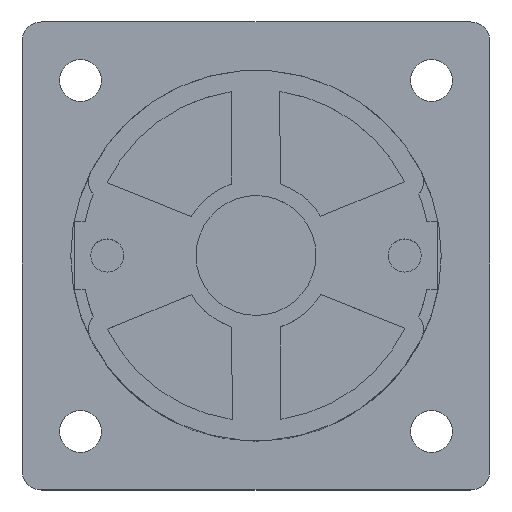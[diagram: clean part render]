
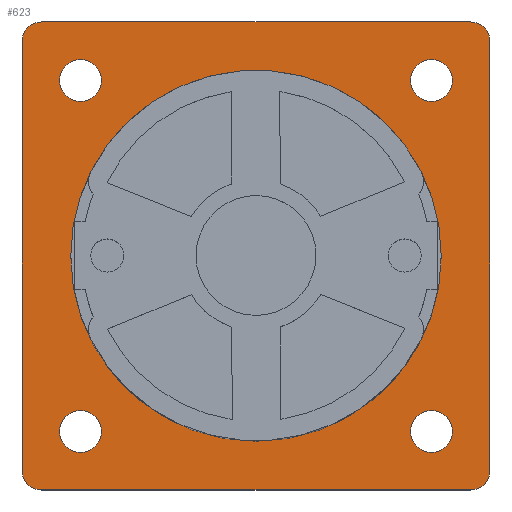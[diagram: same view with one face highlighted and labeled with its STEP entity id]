
A CAD part, top view. The second image highlights one B-rep face of the part: STEP entity #623.
In plain terms, the highlighted planar face has unit normal (0, 0, 1).
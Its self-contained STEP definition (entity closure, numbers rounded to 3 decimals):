
#209=FACE_BOUND('',#1455,.T.);
#210=FACE_BOUND('',#1456,.T.);
#211=FACE_BOUND('',#1457,.T.);
#212=FACE_BOUND('',#1458,.T.);
#213=FACE_BOUND('',#1459,.T.);
#214=FACE_BOUND('',#1460,.T.);
#314=CIRCLE('',#5508,2.15);
#318=CIRCLE('',#5515,2.15);
#322=CIRCLE('',#5522,2.15);
#326=CIRCLE('',#5529,2.15);
#331=CIRCLE('',#5539,19.);
#376=CIRCLE('',#5634,2.);
#377=CIRCLE('',#5636,2.);
#378=CIRCLE('',#5638,2.);
#379=CIRCLE('',#5640,2.);
#623=ADVANCED_FACE('',(#209,#210,#211,#212,#213,#214),#886,.F.);
#886=PLANE('',#5647);
#1455=EDGE_LOOP('',(#2290,#2291,#2292,#2293,#2294,#2295,#2296,#2297));
#1456=EDGE_LOOP('',(#2298));
#1457=EDGE_LOOP('',(#2299));
#1458=EDGE_LOOP('',(#2300));
#1459=EDGE_LOOP('',(#2301));
#1460=EDGE_LOOP('',(#2302));
#2290=ORIENTED_EDGE('',*,*,#4022,.F.);
#2291=ORIENTED_EDGE('',*,*,#4009,.F.);
#2292=ORIENTED_EDGE('',*,*,#4019,.F.);
#2293=ORIENTED_EDGE('',*,*,#4012,.F.);
#2294=ORIENTED_EDGE('',*,*,#4020,.F.);
#2295=ORIENTED_EDGE('',*,*,#4015,.F.);
#2296=ORIENTED_EDGE('',*,*,#4021,.F.);
#2297=ORIENTED_EDGE('',*,*,#4018,.F.);
#2298=ORIENTED_EDGE('',*,*,#3878,.F.);
#2299=ORIENTED_EDGE('',*,*,#3857,.T.);
#2300=ORIENTED_EDGE('',*,*,#3853,.T.);
#2301=ORIENTED_EDGE('',*,*,#3849,.T.);
#2302=ORIENTED_EDGE('',*,*,#3845,.T.);
#3296=VERTEX_POINT('',#7831);
#3300=VERTEX_POINT('',#7842);
#3304=VERTEX_POINT('',#7853);
#3308=VERTEX_POINT('',#7864);
#3325=VERTEX_POINT('',#7903);
#3414=VERTEX_POINT('',#8171);
#3415=VERTEX_POINT('',#8173);
#3416=VERTEX_POINT('',#8177);
#3417=VERTEX_POINT('',#8179);
#3418=VERTEX_POINT('',#8183);
#3419=VERTEX_POINT('',#8185);
#3420=VERTEX_POINT('',#8189);
#3421=VERTEX_POINT('',#8191);
#3845=EDGE_CURVE('',#3296,#3296,#314,.T.);
#3849=EDGE_CURVE('',#3300,#3300,#318,.T.);
#3853=EDGE_CURVE('',#3304,#3304,#322,.T.);
#3857=EDGE_CURVE('',#3308,#3308,#326,.T.);
#3878=EDGE_CURVE('',#3325,#3325,#331,.T.);
#4009=EDGE_CURVE('',#3415,#3414,#376,.T.);
#4012=EDGE_CURVE('',#3417,#3416,#377,.T.);
#4015=EDGE_CURVE('',#3419,#3418,#378,.T.);
#4018=EDGE_CURVE('',#3421,#3420,#379,.T.);
#4019=EDGE_CURVE('',#3416,#3415,#4632,.T.);
#4020=EDGE_CURVE('',#3418,#3417,#4633,.T.);
#4021=EDGE_CURVE('',#3420,#3419,#4634,.T.);
#4022=EDGE_CURVE('',#3414,#3421,#4635,.T.);
#4632=LINE('',#8194,#5125);
#4633=LINE('',#8196,#5126);
#4634=LINE('',#8198,#5127);
#4635=LINE('',#8200,#5128);
#5125=VECTOR('',#6648,1.);
#5126=VECTOR('',#6651,1.);
#5127=VECTOR('',#6654,1.);
#5128=VECTOR('',#6657,1.);
#5508=AXIS2_PLACEMENT_3D('',#7830,#6276,#6277);
#5515=AXIS2_PLACEMENT_3D('',#7841,#6290,#6291);
#5522=AXIS2_PLACEMENT_3D('',#7852,#6304,#6305);
#5529=AXIS2_PLACEMENT_3D('',#7863,#6318,#6319);
#5539=AXIS2_PLACEMENT_3D('',#7902,#6350,#6351);
#5634=AXIS2_PLACEMENT_3D('',#8174,#6626,#6627);
#5636=AXIS2_PLACEMENT_3D('',#8180,#6632,#6633);
#5638=AXIS2_PLACEMENT_3D('',#8186,#6638,#6639);
#5640=AXIS2_PLACEMENT_3D('',#8192,#6644,#6645);
#5647=AXIS2_PLACEMENT_3D('',#8203,#6662,#6663);
#6276=DIRECTION('',(0.,0.,-1.));
#6277=DIRECTION('',(-1.,0.,0.));
#6290=DIRECTION('',(0.,0.,-1.));
#6291=DIRECTION('',(-1.,0.,0.));
#6304=DIRECTION('',(0.,0.,-1.));
#6305=DIRECTION('',(-1.,0.,0.));
#6318=DIRECTION('',(0.,0.,-1.));
#6319=DIRECTION('',(-1.,0.,0.));
#6350=DIRECTION('',(0.,0.,1.));
#6351=DIRECTION('',(-1.,0.,0.));
#6626=DIRECTION('',(0.,0.,-1.));
#6627=DIRECTION('',(1.,0.,0.));
#6632=DIRECTION('',(0.,0.,-1.));
#6633=DIRECTION('',(1.,0.,0.));
#6638=DIRECTION('',(0.,0.,-1.));
#6639=DIRECTION('',(1.,0.,0.));
#6644=DIRECTION('',(0.,0.,-1.));
#6645=DIRECTION('',(1.,0.,0.));
#6648=DIRECTION('',(0.,-1.,0.));
#6651=DIRECTION('',(1.,0.,0.));
#6654=DIRECTION('',(0.,1.,0.));
#6657=DIRECTION('',(-1.,0.,0.));
#6662=DIRECTION('',(0.,0.,-1.));
#6663=DIRECTION('',(-1.,0.,0.));
#7830=CARTESIAN_POINT('',(18.,-18.,2.5));
#7831=CARTESIAN_POINT('',(15.85,-18.,2.5));
#7841=CARTESIAN_POINT('',(18.,18.,2.5));
#7842=CARTESIAN_POINT('',(15.85,18.,2.5));
#7852=CARTESIAN_POINT('',(-18.,18.,2.5));
#7853=CARTESIAN_POINT('',(-20.15,18.,2.5));
#7863=CARTESIAN_POINT('',(-18.,-18.,2.5));
#7864=CARTESIAN_POINT('',(-20.15,-18.,2.5));
#7902=CARTESIAN_POINT('',(0.,0.,2.5));
#7903=CARTESIAN_POINT('',(-19.,0.,2.5));
#8171=CARTESIAN_POINT('',(22.,-24.,2.5));
#8173=CARTESIAN_POINT('',(24.,-22.,2.5));
#8174=CARTESIAN_POINT('',(22.,-22.,2.5));
#8177=CARTESIAN_POINT('',(24.,22.,2.5));
#8179=CARTESIAN_POINT('',(22.,24.,2.5));
#8180=CARTESIAN_POINT('',(22.,22.,2.5));
#8183=CARTESIAN_POINT('',(-22.,24.,2.5));
#8185=CARTESIAN_POINT('',(-24.,22.,2.5));
#8186=CARTESIAN_POINT('',(-22.,22.,2.5));
#8189=CARTESIAN_POINT('',(-24.,-22.,2.5));
#8191=CARTESIAN_POINT('',(-22.,-24.,2.5));
#8192=CARTESIAN_POINT('',(-22.,-22.,2.5));
#8194=CARTESIAN_POINT('',(24.,22.,2.5));
#8196=CARTESIAN_POINT('',(-22.,24.,2.5));
#8198=CARTESIAN_POINT('',(-24.,-22.,2.5));
#8200=CARTESIAN_POINT('',(22.,-24.,2.5));
#8203=CARTESIAN_POINT('',(-22.,-22.,2.5));
